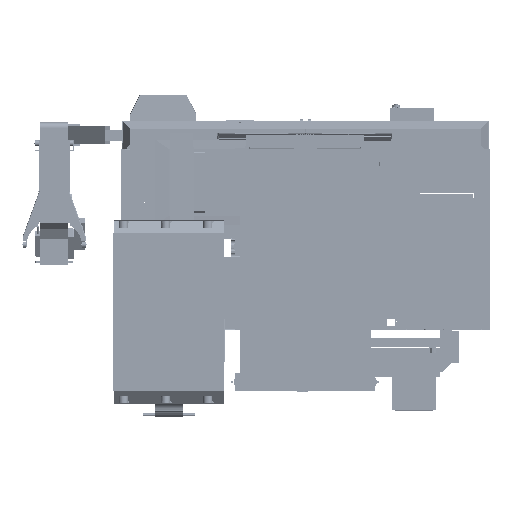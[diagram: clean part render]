
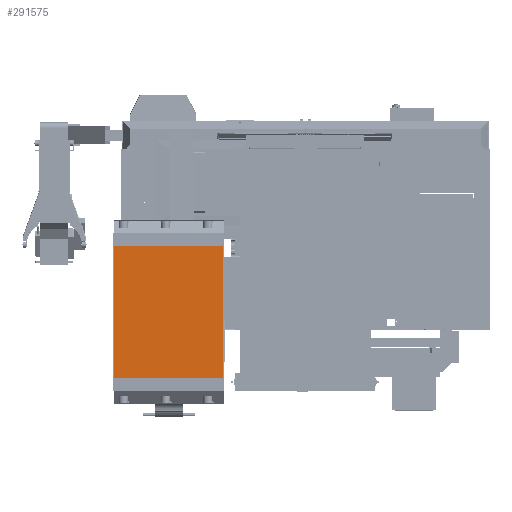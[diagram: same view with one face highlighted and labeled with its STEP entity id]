
A CAD part, front view. The second image highlights one B-rep face of the part: STEP entity #291575.
In plain terms, the highlighted planar face has unit normal (0, -1, 0).
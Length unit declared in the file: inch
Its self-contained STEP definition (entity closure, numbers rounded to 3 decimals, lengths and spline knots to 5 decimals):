
#12294 = DIRECTION ( 'NONE',  ( 1., 0., 0. ) ) ;
#32918 = DIRECTION ( 'NONE',  ( 0., 0., -1. ) ) ;
#40130 = ORIENTED_EDGE ( 'NONE', *, *, #676295, .F. ) ;
#42444 = VECTOR ( 'NONE', #62124, 39.37008 ) ;
#62124 = DIRECTION ( 'NONE',  ( 1., 0., 0. ) ) ;
#66676 = LINE ( 'NONE', #710244, #42444 ) ;
#74672 = CARTESIAN_POINT ( 'NONE',  ( -68.105, -19.4571, -22.54 ) ) ;
#115872 = CARTESIAN_POINT ( 'NONE',  ( -68.105, -19.4571, 39.16 ) ) ;
#177258 = LINE ( 'NONE', #601834, #696314 ) ;
#249853 = CARTESIAN_POINT ( 'NONE',  ( -21.605, -19.4571, 33.76 ) ) ;
#255643 = DIRECTION ( 'NONE',  ( 0., 0., 1. ) ) ;
#269076 = ORIENTED_EDGE ( 'NONE', *, *, #588778, .T. ) ;
#287239 = CARTESIAN_POINT ( 'NONE',  ( -68.105, -19.4571, -22.54 ) ) ;
#291575 = ADVANCED_FACE ( 'NONE', ( #689633 ), #610505, .F. ) ;
#298441 = EDGE_CURVE ( 'NONE', #480841, #769509, #177258, .T. ) ;
#354534 = VECTOR ( 'NONE', #913994, 39.37008 ) ;
#400304 = DIRECTION ( 'NONE',  ( 0., 1., 0. ) ) ;
#469975 = VERTEX_POINT ( 'NONE', #626527 ) ;
#471264 = LINE ( 'NONE', #475840, #354534 ) ;
#475840 = CARTESIAN_POINT ( 'NONE',  ( -68.105, -19.4571, 39.16 ) ) ;
#480841 = VERTEX_POINT ( 'NONE', #249853 ) ;
#568769 = EDGE_CURVE ( 'NONE', #650137, #769509, #642007, .T. ) ;
#588778 = EDGE_CURVE ( 'NONE', #469975, #650137, #471264, .T. ) ;
#601834 = CARTESIAN_POINT ( 'NONE',  ( -21.605, -19.4571, 39.16 ) ) ;
#610505 = PLANE ( 'NONE',  #875151 ) ;
#626527 = CARTESIAN_POINT ( 'NONE',  ( -68.105, -19.4571, 33.76 ) ) ;
#630154 = CARTESIAN_POINT ( 'NONE',  ( -21.605, -19.4571, -22.54 ) ) ;
#642007 = LINE ( 'NONE', #287239, #671634 ) ;
#650137 = VERTEX_POINT ( 'NONE', #74672 ) ;
#671634 = VECTOR ( 'NONE', #12294, 39.37008 ) ;
#676295 = EDGE_CURVE ( 'NONE', #469975, #480841, #66676, .T. ) ;
#689633 = FACE_OUTER_BOUND ( 'NONE', #872082, .T. ) ;
#696314 = VECTOR ( 'NONE', #32918, 39.37008 ) ;
#710244 = CARTESIAN_POINT ( 'NONE',  ( -68.21, -19.4571, 33.76 ) ) ;
#750030 = ORIENTED_EDGE ( 'NONE', *, *, #298441, .F. ) ;
#769509 = VERTEX_POINT ( 'NONE', #630154 ) ;
#872082 = EDGE_LOOP ( 'NONE', ( #40130, #269076, #878478, #750030 ) ) ;
#875151 = AXIS2_PLACEMENT_3D ( 'NONE', #115872, #400304, #255643 ) ;
#878478 = ORIENTED_EDGE ( 'NONE', *, *, #568769, .T. ) ;
#913994 = DIRECTION ( 'NONE',  ( 0., 0., -1. ) ) ;
